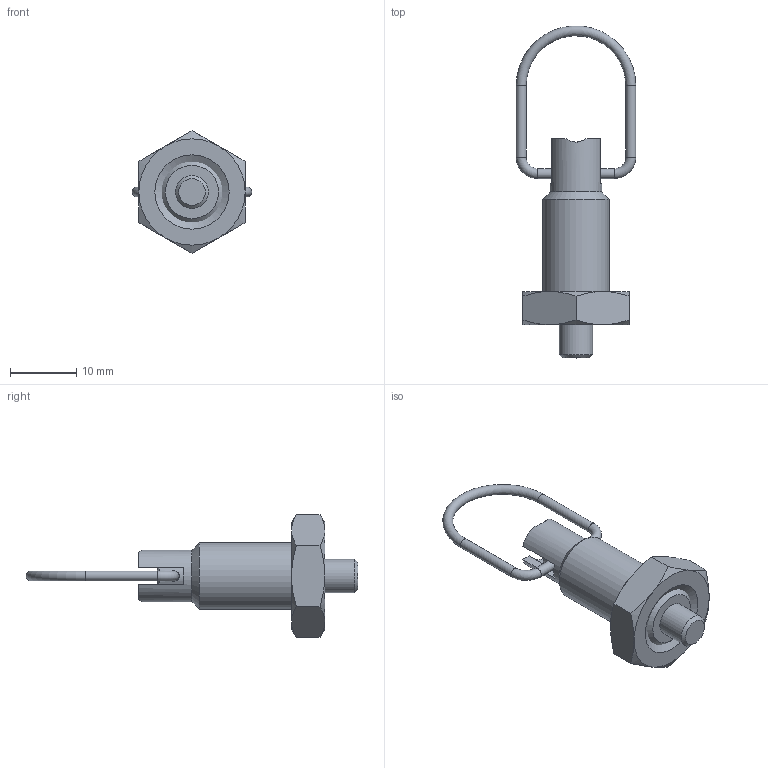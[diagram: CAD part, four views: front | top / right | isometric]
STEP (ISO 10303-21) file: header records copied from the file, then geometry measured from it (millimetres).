
FILE_DESCRIPTION( ( 'STEP AP203' ), '1' );
FILE_NAME( 'C:/Temp/Ganter_Step_05_03_2020/data/3_1/gn_413/gn413_st/gn413_st_ck/Steel-Indexing plunger GN 413-5-M10x1-CK-ST (deactivated- 0).stp', '2020-03-12T09:10:47', ( 'License CC BY-ND 4.0' ), ( 'CADENAS' ), ' ', 'PARTsolutions', ' ' );
FILE_SCHEMA( ( 'CONFIG_CONTROL_DESIGN' ) );
Length unit declared in the file: millimetre
Products named in the file (4): Steel-Indexing plunger GN 413-5-M10x1-CK-ST (deactivated- 0); _Steel-Indexing plunger  GN 413-5-M10x1-CK-ST (deactivated)_f; _Steel-Indexing plunger GN 413-5-M10x1-CK-ST (deactivated)_b; _Steel-Indexing plunger GN 413-5-M10x1-CK-ST (deactivated)_km
Assembly tree (3 placements, depth 2):
  Steel-Indexing plunger GN 413-5-M10x1-CK-ST (deactivated- 0)
    _Steel-Indexing plunger  GN 413-5-M10x1-CK-ST (deactivated)_f
    _Steel-Indexing plunger GN 413-5-M10x1-CK-ST (deactivated)_b
    _Steel-Indexing plunger GN 413-5-M10x1-CK-ST (deactivated)_km
Bounding box: 18 x 49.98 x 18.48 mm (x, y, z)
Volume: 2706.5 mm3; surface area: 2893.1 mm2
Topology: 3 solids, 3 shells, 65 faces, 142 edges, 86 vertices
Faces by surface type: plane 25, cone 21, cylinder 16, torus 3
Full cylindrical faces by diameter (mm): 1.5 x4, 5 x4, 5.3 x1, 6.5 x2, 7.8 x1, 8.376 x1, 10 x1
Entity records: 1925 total; most frequent: CARTESIAN_POINT 509, DIRECTION 274, ORIENTED_EDGE 222, AXIS2_PLACEMENT_3D 124, EDGE_CURVE 111, EDGE_LOOP 100, FACE_OUTER_BOUND 82, VERTEX_POINT 81
